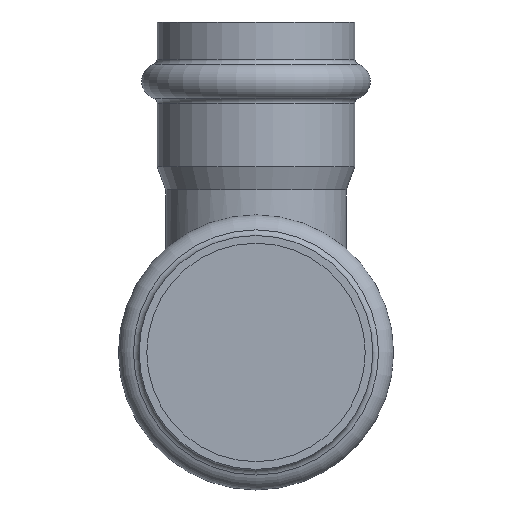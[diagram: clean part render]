
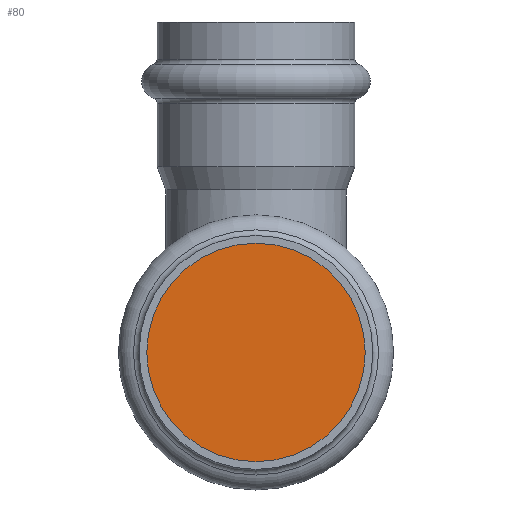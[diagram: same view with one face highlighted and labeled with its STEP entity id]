
A CAD part, front view. The second image highlights one B-rep face of the part: STEP entity #80.
In plain terms, the highlighted planar face has unit normal (0, -1, 0).
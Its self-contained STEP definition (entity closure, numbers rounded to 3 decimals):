
#80=ADVANCED_FACE('',(#325),#327,.T.);
#325=FACE_BOUND('',#326,.T.);
#326=EDGE_LOOP('',(#399));
#327=PLANE('',#328);
#328=AXIS2_PLACEMENT_3D('',#329,#330,#331);
#329=CARTESIAN_POINT('',(0.,-60.292,0.));
#330=DIRECTION('',(0.,-1.,0.));
#331=DIRECTION('',(0.,0.,-1.));
#399=ORIENTED_EDGE('',*,*,#430,.T.);
#430=EDGE_CURVE('',#490,#490,#491,.F.);
#490=VERTEX_POINT('',#898);
#491=CIRCLE('',#899,21.15);
#898=CARTESIAN_POINT('',(0.,-60.292,21.15));
#899=AXIS2_PLACEMENT_3D('',#900,#901,#902);
#900=CARTESIAN_POINT('',(0.,-60.292,0.));
#901=DIRECTION('',(0.,1.,0.));
#902=DIRECTION('',(0.,0.,1.));
